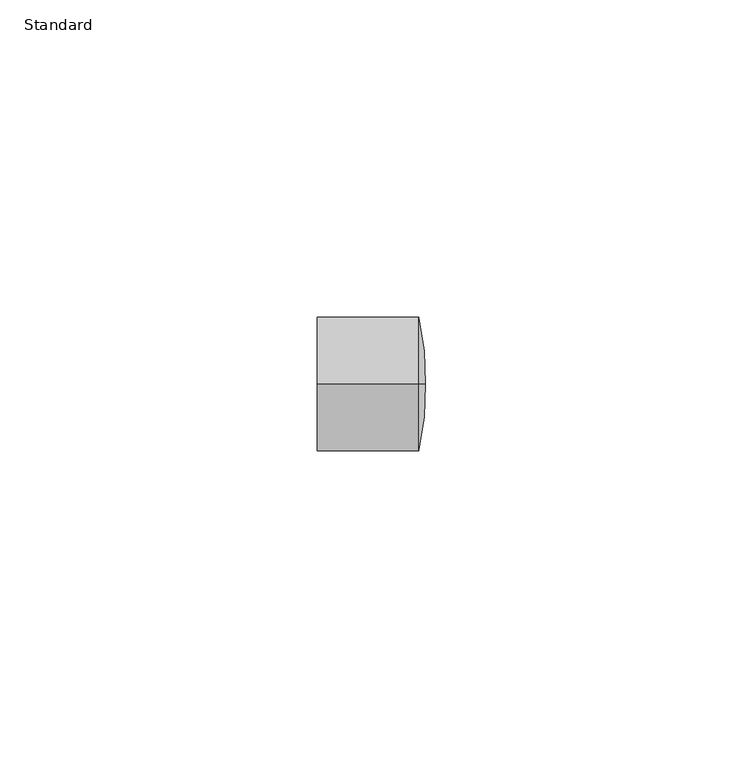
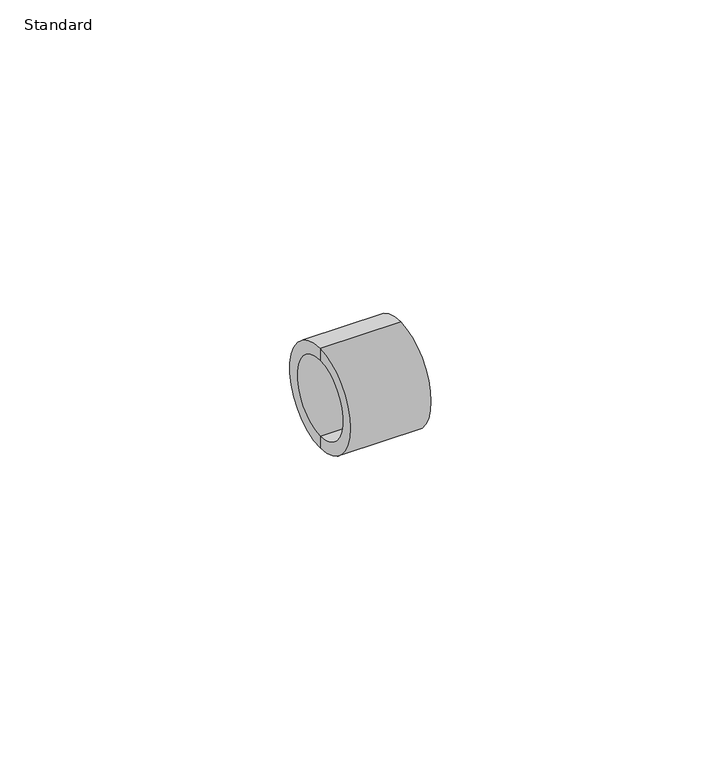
"""IFC4 building model written with IfcOpenShell, lengths in millimetres: pipe fitting geometry, Durapipe_PipeFitting_PVC_Cap : Standard."""

from ifc_helpers import new_model, si_unit, point, frame, origin, place, context, project, spatial, polyline, circle_curve, ellipse_curve, trimmed, source, transform, mapped, element, save
from ifc_brep_helpers import plane_surface, cylinder_surface, revolved_surface, advanced_brep


def standard_e9653782(model_context):
    return source(origin(), model_context, "Body", "AdvancedBrep", [
        advanced_brep(
        [(0.0, 0.0, 0.0), (0.0, 0.0, 8.0), (0.0, 0.0, -8.0), (1.0, 0.0, -10.5), (1.0, 0.0, 10.5), (2.0, 0.0, 0.0), (-15.0, 0.0, -10.5), (-15.0, 0.0, 10.5), (-15.0, 0.0, -8.0), (-15.0, 0.0, 8.0)],
        [
            (0, 1),
            (1, 2, circle_curve(frame((0.0, 0.0, 0.0), z_axis=(-1.0, 0.0, 0.0), x_axis=(0.0, 0.0, 1.0)), 8.0)),
            (2, 0),
            (2, 1, circle_curve(frame((0.0, 0.0, 0.0), z_axis=(-1.0, 0.0, 0.0), x_axis=(0.0, 0.0, 1.0)), 8.0)),
            (3, 4, circle_curve(frame((1.0, 0.0, 0.0), z_axis=(1.0, 0.0, 0.0), x_axis=(0.0, 0.0, 1.0)), 10.5)),
            (4, 5, circle_curve(frame((-41.8185181, 0.0, 1.1244268), z_axis=(0.0, 1.0, 0.0), x_axis=(1.0, 0.0, 0.0)), 43.8329427)),
            (5, 3, circle_curve(frame((-41.8185181, 0.0, -1.1244268), z_axis=(0.0, 1.0, 0.0), x_axis=(1.0, 0.0, 0.0)), 43.8329427)),
            (4, 3, circle_curve(frame((1.0, 0.0, 0.0), z_axis=(1.0, 0.0, 0.0), x_axis=(0.0, 0.0, 1.0)), 10.5)),
            (6, 7, circle_curve(frame((-15.0, 0.0, 0.0), z_axis=(1.0, 0.0, 0.0), x_axis=(0.0, 0.0, 1.0)), 10.5)),
            (7, 4),
            (3, 6),
            (7, 6, circle_curve(frame((-15.0, 0.0, 0.0), z_axis=(1.0, 0.0, 0.0), x_axis=(0.0, 0.0, 1.0)), 10.5)),
            (8, 9, circle_curve(frame((-15.0, 0.0, 0.0), z_axis=(1.0, 0.0, 0.0), x_axis=(0.0, 0.0, 1.0)), 8.0)),
            (9, 7),
            (6, 8),
            (9, 8, circle_curve(frame((-15.0, 0.0, 0.0), z_axis=(1.0, 0.0, 0.0), x_axis=(0.0, 0.0, 1.0)), 8.0)),
            (1, 9),
            (8, 2),
        ],
        [
            plane_surface(frame((0.0, 0.0, 0.0), z_axis=(-1.0, 0.0, 0.0), x_axis=(0.0, 0.0, 1.0))),
            revolved_surface(trimmed(ellipse_curve(frame((-41.8185181, 0.0, 1.1244268), z_axis=(0.0, -1.0, 0.0), x_axis=(1.0, 0.0, 0.0)), 43.8329427, 43.8329427), [point((2.0, 0.0, 0.0))], [point((1.0, 0.0, 10.5))], True, "CARTESIAN"), (-1514.1299635, 0.0, 0.0), (-1.0, 0.0, 0.0)),
            cylinder_surface(frame((-1514.1299635, 0.0, 0.0), z_axis=(-1.0, 0.0, 0.0), x_axis=(0.0, 0.0, 1.0)), 10.5),
            plane_surface(frame((-15.0, 0.0, 0.0), z_axis=(-1.0, 0.0, 0.0), x_axis=(0.0, 0.0, 1.0))),
            revolved_surface(polyline([(-15.0, 0.0, 8.0), (0.0, 0.0, 8.0)]), (-1514.1299635, 0.0, 0.0), (-1.0, 0.0, 0.0)),
        ],
        [
            (0, [[1, 2, 3]]),
            (0, [[-3, 4, -1]]),
            (1, [[5, 6, 7]]),
            (1, [[8, -7, -6]]),
            (2, [[9, 10, -5, 11]]),
            (2, [[12, -11, -8, -10]]),
            (3, [[13, 14, -9, 15]]),
            (3, [[16, -15, -12, -14]]),
            (4, [[-2, 17, -13, 18]]),
            (4, [[-4, -18, -16, -17]]),
        ],
    ),
    ])


if __name__ == "__main__":
    model = new_model("IFC4")
    model_context = context("Model", 3, world=origin())
    ifc_project = project(units=[si_unit("LENGTHUNIT", "METRE", prefix="MILLI")], contexts=[model_context])
    site = spatial("IfcSite", under=ifc_project)
    building = spatial("IfcBuilding", under=site)
    placement = place(None, origin())
    standard_shape = standard_e9653782(model_context)
    element("IfcPipeFitting", 1, ObjectType="Durapipe_PipeFitting_PVC_Cap : Standard", at=placement, inside=building, context=model_context, shape_type="MappedRepresentation", body=[
        mapped(standard_shape, transform((0.0, 0.0, 0.0), x_axis=(1.0, 0.0, 0.0), y_axis=(0.0, 1.0, 0.0), z_axis=(0.0, 0.0, 1.0))),
    ])
    save(model, "model.ifc")
